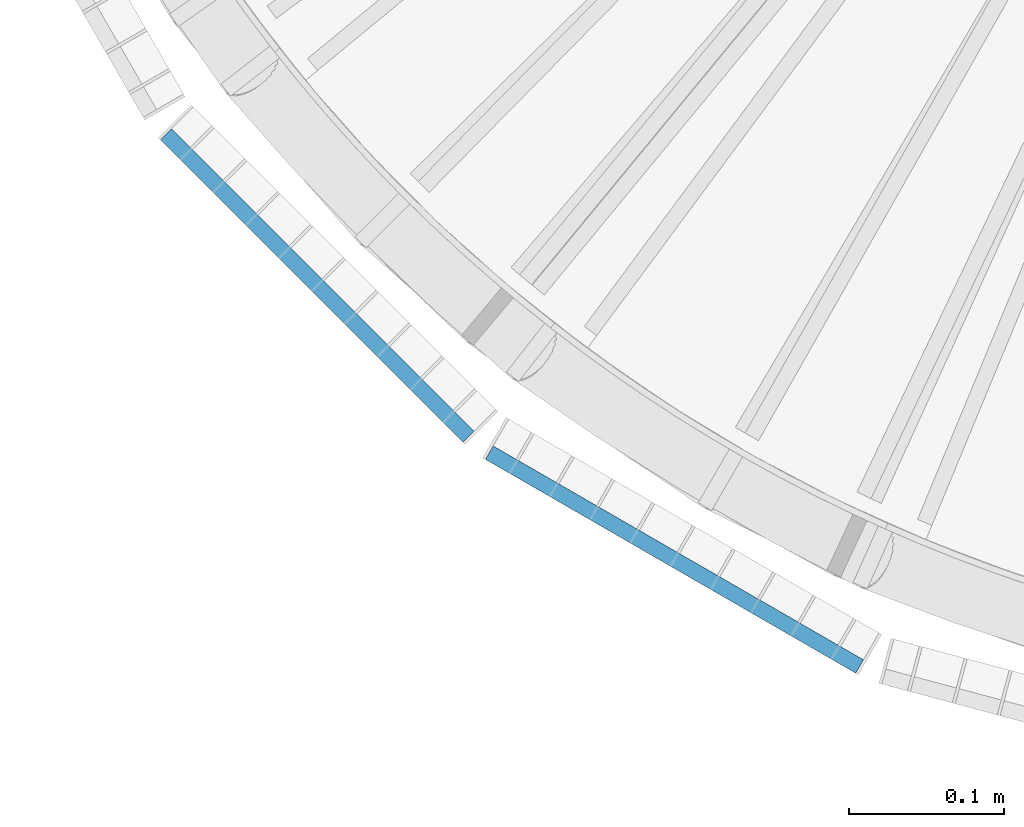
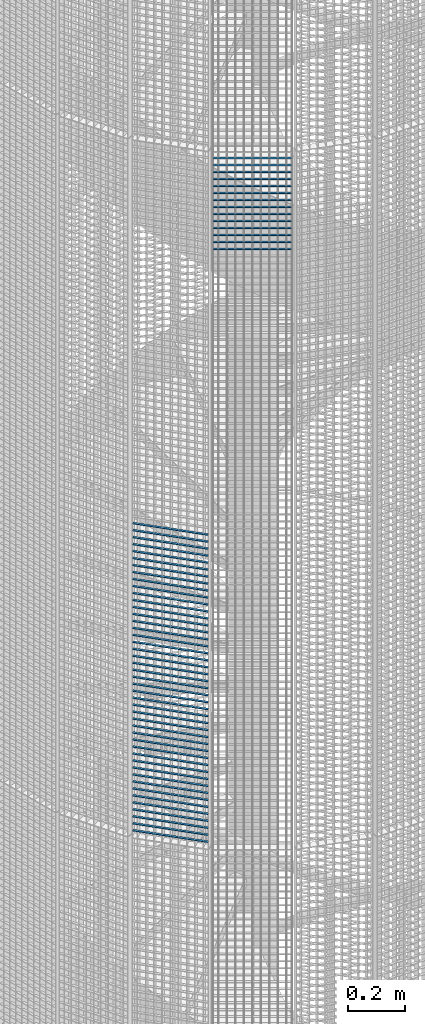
# One storey, part 361 of 1148: 59 beams, 2 elements without a shape of their own.
"""IFC2X3 building model written with IfcOpenShell, lengths in millimetres."""

from ifc_helpers import new_model, si_unit, frame, origin_with_axes, origin_2d_with_axis, place, context, subcontext, project, spatial, rectangle, extrude, material, type_object, element, aggregate, save


model = new_model("IFC2X3")

# Units and contexts
model_context = context("Model", 3, precision=1e-05, world=origin_with_axes())
body_context = subcontext(model_context, "Body", "Model", "MODEL_VIEW")
ifc_project = project(units=[si_unit("LENGTHUNIT", "METRE", prefix="MILLI"), si_unit("AREAUNIT", "SQUARE_METRE"), si_unit("VOLUMEUNIT", "CUBIC_METRE"), si_unit("MASSUNIT", "GRAM", prefix="KILO"), si_unit("TIMEUNIT", "SECOND"), si_unit("PLANEANGLEUNIT", "RADIAN"), si_unit("SOLIDANGLEUNIT", "STERADIAN"), si_unit("THERMODYNAMICTEMPERATUREUNIT", "DEGREE_CELSIUS"), si_unit("LUMINOUSINTENSITYUNIT", "LUMEN")], contexts=[model_context])

# Site, building, storey
site_placement = place(None, origin_with_axes())
site = spatial("IfcSite", under=ifc_project, at=site_placement, Name="Undefined", CompositionType="ELEMENT")
building_placement = place(site_placement, origin_with_axes())
building = spatial("IfcBuilding", under=site, at=building_placement, Name="Undefined", CompositionType="ELEMENT")
storey_placement = place(building_placement, origin_with_axes())
storey = spatial("IfcBuildingStorey", under=building, at=storey_placement, Name="Undefined", CompositionType="ELEMENT", Elevation=0.0)

# Assembly, beams
assembly_1_placement = place(storey_placement, origin_with_axes())
assembly_1 = element("IfcElementAssembly", 1, at=assembly_1_placement, inside=storey, Name="BORDURE", AssemblyPlace="NOTDEFINED", PredefinedType="NOTDEFINED")
ifc_material = material(Name="STEEL/S235JR")
beam_type = type_object("IfcBeamType", Name="PL2*10", PredefinedType="NOTDEFINED")
beam_1_placement = place(assembly_1_placement, frame((20910.2286510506, -884.927168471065, 4350.0), z_axis=(-0.70710678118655, -0.707106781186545, 0.0), x_axis=(-0.707106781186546, 0.707106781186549, 0.0)))
beam_1 = element("IfcBeam", 2, at=beam_1_placement, type_object=beam_type, material=ifc_material, Name="ENTRETOISE", context=body_context, shape_type="SweptSolid", body=[
    extrude(rectangle(XDim=2.0, YDim=10.0, at=origin_2d_with_axis()), frame((275.999999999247, 9.09494701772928e-13, 1.53210777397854e-14), z_axis=(-1.0, 0.0, 0.0), x_axis=(0.0, -1.0, 0.0)), (0.0, 0.0, 1.0), 276.0),
])
beam_2_placement = place(assembly_1_placement, frame((20910.2286510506, -884.927168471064, 4320.0), z_axis=(-0.70710678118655, -0.707106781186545, 0.0), x_axis=(-0.707106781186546, 0.707106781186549, 0.0)))
beam_2 = element("IfcBeam", 3, at=beam_2_placement, type_object=beam_type, material=ifc_material, Name="ENTRETOISE", context=body_context, shape_type="SweptSolid", body=[
    extrude(rectangle(XDim=2.0, YDim=10.0, at=origin_2d_with_axis()), frame((275.999999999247, 9.09494701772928e-13, 1.53210777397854e-14), z_axis=(-1.0, 0.0, 0.0), x_axis=(0.0, -1.0, 0.0)), (0.0, 0.0, 1.0), 276.0),
])
beam_3_placement = place(assembly_1_placement, frame((20910.2286510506, -884.927168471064, 4290.0), z_axis=(-0.70710678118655, -0.707106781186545, 0.0), x_axis=(-0.707106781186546, 0.707106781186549, 0.0)))
beam_3 = element("IfcBeam", 4, at=beam_3_placement, type_object=beam_type, material=ifc_material, Name="ENTRETOISE", context=body_context, shape_type="SweptSolid", body=[
    extrude(rectangle(XDim=2.0, YDim=10.0, at=origin_2d_with_axis()), frame((275.999999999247, 9.09494701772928e-13, 1.53210777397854e-14), z_axis=(-1.0, 0.0, 0.0), x_axis=(0.0, -1.0, 0.0)), (0.0, 0.0, 1.0), 276.0),
])
beam_4_placement = place(assembly_1_placement, frame((20910.2286510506, -884.927168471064, 4260.0), z_axis=(-0.70710678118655, -0.707106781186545, 0.0), x_axis=(-0.707106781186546, 0.707106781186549, 0.0)))
beam_4 = element("IfcBeam", 5, at=beam_4_placement, type_object=beam_type, material=ifc_material, Name="ENTRETOISE", context=body_context, shape_type="SweptSolid", body=[
    extrude(rectangle(XDim=2.0, YDim=10.0, at=origin_2d_with_axis()), frame((275.999999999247, 9.09494701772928e-13, 1.53210777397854e-14), z_axis=(-1.0, 0.0, 0.0), x_axis=(0.0, -1.0, 0.0)), (0.0, 0.0, 1.0), 276.0),
])
beam_5_placement = place(assembly_1_placement, frame((20910.2286510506, -884.927168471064, 4230.0), z_axis=(-0.70710678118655, -0.707106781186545, 0.0), x_axis=(-0.707106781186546, 0.707106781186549, 0.0)))
beam_5 = element("IfcBeam", 6, at=beam_5_placement, type_object=beam_type, material=ifc_material, Name="ENTRETOISE", context=body_context, shape_type="SweptSolid", body=[
    extrude(rectangle(XDim=2.0, YDim=10.0, at=origin_2d_with_axis()), frame((275.999999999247, 9.09494701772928e-13, 1.53210777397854e-14), z_axis=(-1.0, 0.0, 0.0), x_axis=(0.0, -1.0, 0.0)), (0.0, 0.0, 1.0), 276.0),
])
beam_6_placement = place(assembly_1_placement, frame((20910.2286510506, -884.927168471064, 4200.0), z_axis=(-0.70710678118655, -0.707106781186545, 0.0), x_axis=(-0.707106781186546, 0.707106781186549, 0.0)))
beam_6 = element("IfcBeam", 7, at=beam_6_placement, type_object=beam_type, material=ifc_material, Name="ENTRETOISE", context=body_context, shape_type="SweptSolid", body=[
    extrude(rectangle(XDim=2.0, YDim=10.0, at=origin_2d_with_axis()), frame((275.999999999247, 9.09494701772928e-13, 1.53210777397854e-14), z_axis=(-1.0, 0.0, 0.0), x_axis=(0.0, -1.0, 0.0)), (0.0, 0.0, 1.0), 276.0),
])
beam_7_placement = place(assembly_1_placement, frame((20910.2286510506, -884.927168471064, 4170.0), z_axis=(-0.70710678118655, -0.707106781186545, 0.0), x_axis=(-0.707106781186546, 0.707106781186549, 0.0)))
beam_7 = element("IfcBeam", 8, at=beam_7_placement, type_object=beam_type, material=ifc_material, Name="ENTRETOISE", context=body_context, shape_type="SweptSolid", body=[
    extrude(rectangle(XDim=2.0, YDim=10.0, at=origin_2d_with_axis()), frame((275.999999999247, 9.09494701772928e-13, 1.53210777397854e-14), z_axis=(-1.0, 0.0, 0.0), x_axis=(0.0, -1.0, 0.0)), (0.0, 0.0, 1.0), 276.0),
])
beam_8_placement = place(assembly_1_placement, frame((20910.2286510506, -884.927168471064, 4140.0), z_axis=(-0.70710678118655, -0.707106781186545, 0.0), x_axis=(-0.707106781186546, 0.707106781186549, 0.0)))
beam_8 = element("IfcBeam", 9, at=beam_8_placement, type_object=beam_type, material=ifc_material, Name="ENTRETOISE", context=body_context, shape_type="SweptSolid", body=[
    extrude(rectangle(XDim=2.0, YDim=10.0, at=origin_2d_with_axis()), frame((275.999999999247, 9.09494701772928e-13, 1.53210777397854e-14), z_axis=(-1.0, 0.0, 0.0), x_axis=(0.0, -1.0, 0.0)), (0.0, 0.0, 1.0), 276.0),
])
beam_9_placement = place(assembly_1_placement, frame((20910.2286510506, -884.927168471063, 3720.0), z_axis=(-0.70710678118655, -0.707106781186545, 0.0), x_axis=(-0.707106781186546, 0.707106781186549, 0.0)))
beam_9 = element("IfcBeam", 10, at=beam_9_placement, type_object=beam_type, material=ifc_material, Name="ENTRETOISE", context=body_context, shape_type="SweptSolid", body=[
    extrude(rectangle(XDim=2.0, YDim=10.0, at=origin_2d_with_axis()), frame((275.999999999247, 9.09494701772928e-13, 1.53210777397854e-14), z_axis=(-1.0, 0.0, 0.0), x_axis=(0.0, -1.0, 0.0)), (0.0, 0.0, 1.0), 276.0),
])
beam_10_placement = place(assembly_1_placement, frame((20910.2286510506, -884.927168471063, 3690.0), z_axis=(-0.70710678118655, -0.707106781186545, 0.0), x_axis=(-0.707106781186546, 0.707106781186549, 0.0)))
beam_10 = element("IfcBeam", 11, at=beam_10_placement, type_object=beam_type, material=ifc_material, Name="ENTRETOISE", context=body_context, shape_type="SweptSolid", body=[
    extrude(rectangle(XDim=2.0, YDim=10.0, at=origin_2d_with_axis()), frame((275.999999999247, 9.09494701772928e-13, 1.53210777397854e-14), z_axis=(-1.0, 0.0, 0.0), x_axis=(0.0, -1.0, 0.0)), (0.0, 0.0, 1.0), 276.0),
])
beam_11_placement = place(assembly_1_placement, frame((20910.2286510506, -884.927168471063, 3750.0), z_axis=(-0.70710678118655, -0.707106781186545, 0.0), x_axis=(-0.707106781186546, 0.707106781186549, 0.0)))
beam_11 = element("IfcBeam", 12, at=beam_11_placement, type_object=beam_type, material=ifc_material, Name="ENTRETOISE", context=body_context, shape_type="SweptSolid", body=[
    extrude(rectangle(XDim=2.0, YDim=10.0, at=origin_2d_with_axis()), frame((275.999999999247, 9.09494701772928e-13, 1.53210777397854e-14), z_axis=(-1.0, 0.0, 0.0), x_axis=(0.0, -1.0, 0.0)), (0.0, 0.0, 1.0), 276.0),
])
beam_12_placement = place(assembly_1_placement, frame((20910.2286510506, -884.927168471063, 3660.0), z_axis=(-0.70710678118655, -0.707106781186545, 0.0), x_axis=(-0.707106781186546, 0.707106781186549, 0.0)))
beam_12 = element("IfcBeam", 13, at=beam_12_placement, type_object=beam_type, material=ifc_material, Name="ENTRETOISE", context=body_context, shape_type="SweptSolid", body=[
    extrude(rectangle(XDim=2.0, YDim=10.0, at=origin_2d_with_axis()), frame((275.999999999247, 9.09494701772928e-13, 1.53210777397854e-14), z_axis=(-1.0, 0.0, 0.0), x_axis=(0.0, -1.0, 0.0)), (0.0, 0.0, 1.0), 276.0),
])
beam_13_placement = place(assembly_1_placement, frame((20910.2286510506, -884.927168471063, 3630.0), z_axis=(-0.70710678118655, -0.707106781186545, 0.0), x_axis=(-0.707106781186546, 0.707106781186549, 0.0)))
beam_13 = element("IfcBeam", 14, at=beam_13_placement, type_object=beam_type, material=ifc_material, Name="ENTRETOISE", context=body_context, shape_type="SweptSolid", body=[
    extrude(rectangle(XDim=2.0, YDim=10.0, at=origin_2d_with_axis()), frame((275.999999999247, 9.09494701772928e-13, 1.53210777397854e-14), z_axis=(-1.0, 0.0, 0.0), x_axis=(0.0, -1.0, 0.0)), (0.0, 0.0, 1.0), 276.0),
])
beam_14_placement = place(assembly_1_placement, frame((20910.2286510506, -884.927168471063, 3780.0), z_axis=(-0.70710678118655, -0.707106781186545, 0.0), x_axis=(-0.707106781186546, 0.707106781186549, 0.0)))
beam_14 = element("IfcBeam", 15, at=beam_14_placement, type_object=beam_type, material=ifc_material, Name="ENTRETOISE", context=body_context, shape_type="SweptSolid", body=[
    extrude(rectangle(XDim=2.0, YDim=10.0, at=origin_2d_with_axis()), frame((275.999999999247, 9.09494701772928e-13, 1.53210777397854e-14), z_axis=(-1.0, 0.0, 0.0), x_axis=(0.0, -1.0, 0.0)), (0.0, 0.0, 1.0), 276.0),
])
beam_15_placement = place(assembly_1_placement, frame((20910.2286510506, -884.927168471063, 3600.0), z_axis=(-0.70710678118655, -0.707106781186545, 0.0), x_axis=(-0.707106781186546, 0.707106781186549, 0.0)))
beam_15 = element("IfcBeam", 16, at=beam_15_placement, type_object=beam_type, material=ifc_material, Name="ENTRETOISE", context=body_context, shape_type="SweptSolid", body=[
    extrude(rectangle(XDim=2.0, YDim=10.0, at=origin_2d_with_axis()), frame((275.999999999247, 9.09494701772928e-13, 1.53210777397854e-14), z_axis=(-1.0, 0.0, 0.0), x_axis=(0.0, -1.0, 0.0)), (0.0, 0.0, 1.0), 276.0),
])
beam_16_placement = place(assembly_1_placement, frame((20910.2286510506, -884.927168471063, 3810.0), z_axis=(-0.70710678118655, -0.707106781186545, 0.0), x_axis=(-0.707106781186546, 0.707106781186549, 0.0)))
beam_16 = element("IfcBeam", 17, at=beam_16_placement, type_object=beam_type, material=ifc_material, Name="ENTRETOISE", context=body_context, shape_type="SweptSolid", body=[
    extrude(rectangle(XDim=2.0, YDim=10.0, at=origin_2d_with_axis()), frame((275.999999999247, 9.09494701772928e-13, 1.53210777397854e-14), z_axis=(-1.0, 0.0, 0.0), x_axis=(0.0, -1.0, 0.0)), (0.0, 0.0, 1.0), 276.0),
])
beam_17_placement = place(assembly_1_placement, frame((20910.2286510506, -884.927168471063, 3570.0), z_axis=(-0.70710678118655, -0.707106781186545, 0.0), x_axis=(-0.707106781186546, 0.707106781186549, 0.0)))
beam_17 = element("IfcBeam", 18, at=beam_17_placement, type_object=beam_type, material=ifc_material, Name="ENTRETOISE", context=body_context, shape_type="SweptSolid", body=[
    extrude(rectangle(XDim=2.0, YDim=10.0, at=origin_2d_with_axis()), frame((275.999999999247, 9.09494701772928e-13, 1.53210777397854e-14), z_axis=(-1.0, 0.0, 0.0), x_axis=(0.0, -1.0, 0.0)), (0.0, 0.0, 1.0), 276.0),
])
beam_18_placement = place(assembly_1_placement, frame((20910.2286510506, -884.927168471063, 3540.0), z_axis=(-0.70710678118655, -0.707106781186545, 0.0), x_axis=(-0.707106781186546, 0.707106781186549, 0.0)))
beam_18 = element("IfcBeam", 19, at=beam_18_placement, type_object=beam_type, material=ifc_material, Name="ENTRETOISE", context=body_context, shape_type="SweptSolid", body=[
    extrude(rectangle(XDim=2.0, YDim=10.0, at=origin_2d_with_axis()), frame((275.999999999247, 9.09494701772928e-13, 1.53210777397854e-14), z_axis=(-1.0, 0.0, 0.0), x_axis=(0.0, -1.0, 0.0)), (0.0, 0.0, 1.0), 276.0),
])
beam_19_placement = place(assembly_1_placement, frame((20910.2286510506, -884.927168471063, 3840.0), z_axis=(-0.70710678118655, -0.707106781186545, 0.0), x_axis=(-0.707106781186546, 0.707106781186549, 0.0)))
beam_19 = element("IfcBeam", 20, at=beam_19_placement, type_object=beam_type, material=ifc_material, Name="ENTRETOISE", context=body_context, shape_type="SweptSolid", body=[
    extrude(rectangle(XDim=2.0, YDim=10.0, at=origin_2d_with_axis()), frame((275.999999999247, 9.09494701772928e-13, 1.53210777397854e-14), z_axis=(-1.0, 0.0, 0.0), x_axis=(0.0, -1.0, 0.0)), (0.0, 0.0, 1.0), 276.0),
])
beam_20_placement = place(assembly_1_placement, frame((20910.2286510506, -884.927168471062, 3510.0), z_axis=(-0.70710678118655, -0.707106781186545, 0.0), x_axis=(-0.707106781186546, 0.707106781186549, 0.0)))
beam_20 = element("IfcBeam", 21, at=beam_20_placement, type_object=beam_type, material=ifc_material, Name="ENTRETOISE", context=body_context, shape_type="SweptSolid", body=[
    extrude(rectangle(XDim=2.0, YDim=10.0, at=origin_2d_with_axis()), frame((275.999999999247, 9.09494701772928e-13, 1.53210777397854e-14), z_axis=(-1.0, 0.0, 0.0), x_axis=(0.0, -1.0, 0.0)), (0.0, 0.0, 1.0), 276.0),
])
beam_21_placement = place(assembly_1_placement, frame((20910.2286510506, -884.927168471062, 3480.0), z_axis=(-0.70710678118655, -0.707106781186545, 0.0), x_axis=(-0.707106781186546, 0.707106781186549, 0.0)))
beam_21 = element("IfcBeam", 22, at=beam_21_placement, type_object=beam_type, material=ifc_material, Name="ENTRETOISE", context=body_context, shape_type="SweptSolid", body=[
    extrude(rectangle(XDim=2.0, YDim=10.0, at=origin_2d_with_axis()), frame((275.999999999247, 9.09494701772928e-13, 1.53210777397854e-14), z_axis=(-1.0, 0.0, 0.0), x_axis=(0.0, -1.0, 0.0)), (0.0, 0.0, 1.0), 276.0),
])
beam_22_placement = place(assembly_1_placement, frame((20910.2286510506, -884.927168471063, 3870.0), z_axis=(-0.70710678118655, -0.707106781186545, 0.0), x_axis=(-0.707106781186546, 0.707106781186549, 0.0)))
beam_22 = element("IfcBeam", 23, at=beam_22_placement, type_object=beam_type, material=ifc_material, Name="ENTRETOISE", context=body_context, shape_type="SweptSolid", body=[
    extrude(rectangle(XDim=2.0, YDim=10.0, at=origin_2d_with_axis()), frame((275.999999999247, 9.09494701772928e-13, 1.53210777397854e-14), z_axis=(-1.0, 0.0, 0.0), x_axis=(0.0, -1.0, 0.0)), (0.0, 0.0, 1.0), 276.0),
])
beam_23_placement = place(assembly_1_placement, frame((20910.2286510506, -884.927168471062, 3450.0), z_axis=(-0.70710678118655, -0.707106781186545, 0.0), x_axis=(-0.707106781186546, 0.707106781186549, 0.0)))
beam_23 = element("IfcBeam", 24, at=beam_23_placement, type_object=beam_type, material=ifc_material, Name="ENTRETOISE", context=body_context, shape_type="SweptSolid", body=[
    extrude(rectangle(XDim=2.0, YDim=10.0, at=origin_2d_with_axis()), frame((275.999999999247, 9.09494701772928e-13, 1.53210777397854e-14), z_axis=(-1.0, 0.0, 0.0), x_axis=(0.0, -1.0, 0.0)), (0.0, 0.0, 1.0), 276.0),
])
beam_24_placement = place(assembly_1_placement, frame((20910.2286510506, -884.927168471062, 3420.0), z_axis=(-0.70710678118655, -0.707106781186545, 0.0), x_axis=(-0.707106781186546, 0.707106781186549, 0.0)))
beam_24 = element("IfcBeam", 25, at=beam_24_placement, type_object=beam_type, material=ifc_material, Name="ENTRETOISE", context=body_context, shape_type="SweptSolid", body=[
    extrude(rectangle(XDim=2.0, YDim=10.0, at=origin_2d_with_axis()), frame((275.999999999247, 9.09494701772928e-13, 1.53210777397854e-14), z_axis=(-1.0, 0.0, 0.0), x_axis=(0.0, -1.0, 0.0)), (0.0, 0.0, 1.0), 276.0),
])
beam_25_placement = place(assembly_1_placement, frame((20910.2286510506, -884.927168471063, 3900.0), z_axis=(-0.70710678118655, -0.707106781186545, 0.0), x_axis=(-0.707106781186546, 0.707106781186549, 0.0)))
beam_25 = element("IfcBeam", 26, at=beam_25_placement, type_object=beam_type, material=ifc_material, Name="ENTRETOISE", context=body_context, shape_type="SweptSolid", body=[
    extrude(rectangle(XDim=2.0, YDim=10.0, at=origin_2d_with_axis()), frame((275.999999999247, 9.09494701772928e-13, 1.53210777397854e-14), z_axis=(-1.0, 0.0, 0.0), x_axis=(0.0, -1.0, 0.0)), (0.0, 0.0, 1.0), 276.0),
])
beam_26_placement = place(assembly_1_placement, frame((20910.2286510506, -884.927168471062, 3390.0), z_axis=(-0.70710678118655, -0.707106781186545, 0.0), x_axis=(-0.707106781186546, 0.707106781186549, 0.0)))
beam_26 = element("IfcBeam", 27, at=beam_26_placement, type_object=beam_type, material=ifc_material, Name="ENTRETOISE", context=body_context, shape_type="SweptSolid", body=[
    extrude(rectangle(XDim=2.0, YDim=10.0, at=origin_2d_with_axis()), frame((275.999999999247, 9.09494701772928e-13, 1.53210777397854e-14), z_axis=(-1.0, 0.0, 0.0), x_axis=(0.0, -1.0, 0.0)), (0.0, 0.0, 1.0), 276.0),
])
beam_27_placement = place(assembly_1_placement, frame((20910.2286510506, -884.927168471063, 3930.0), z_axis=(-0.70710678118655, -0.707106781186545, 0.0), x_axis=(-0.707106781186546, 0.707106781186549, 0.0)))
beam_27 = element("IfcBeam", 28, at=beam_27_placement, type_object=beam_type, material=ifc_material, Name="ENTRETOISE", context=body_context, shape_type="SweptSolid", body=[
    extrude(rectangle(XDim=2.0, YDim=10.0, at=origin_2d_with_axis()), frame((275.999999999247, 9.09494701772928e-13, 1.53210777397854e-14), z_axis=(-1.0, 0.0, 0.0), x_axis=(0.0, -1.0, 0.0)), (0.0, 0.0, 1.0), 276.0),
])
beam_28_placement = place(assembly_1_placement, frame((20910.2286510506, -884.927168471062, 3360.0), z_axis=(-0.70710678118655, -0.707106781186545, 0.0), x_axis=(-0.707106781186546, 0.707106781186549, 0.0)))
beam_28 = element("IfcBeam", 29, at=beam_28_placement, type_object=beam_type, material=ifc_material, Name="ENTRETOISE", context=body_context, shape_type="SweptSolid", body=[
    extrude(rectangle(XDim=2.0, YDim=10.0, at=origin_2d_with_axis()), frame((275.999999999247, 9.09494701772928e-13, 1.53210777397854e-14), z_axis=(-1.0, 0.0, 0.0), x_axis=(0.0, -1.0, 0.0)), (0.0, 0.0, 1.0), 276.0),
])
beam_29_placement = place(assembly_1_placement, frame((20910.2286510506, -884.927168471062, 3330.0), z_axis=(-0.70710678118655, -0.707106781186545, 0.0), x_axis=(-0.707106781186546, 0.707106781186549, 0.0)))
beam_29 = element("IfcBeam", 30, at=beam_29_placement, type_object=beam_type, material=ifc_material, Name="ENTRETOISE", context=body_context, shape_type="SweptSolid", body=[
    extrude(rectangle(XDim=2.0, YDim=10.0, at=origin_2d_with_axis()), frame((275.999999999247, 9.09494701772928e-13, 1.53210777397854e-14), z_axis=(-1.0, 0.0, 0.0), x_axis=(0.0, -1.0, 0.0)), (0.0, 0.0, 1.0), 276.0),
])
beam_30_placement = place(assembly_1_placement, frame((20910.2286510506, -884.927168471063, 3960.0), z_axis=(-0.70710678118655, -0.707106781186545, 0.0), x_axis=(-0.707106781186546, 0.707106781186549, 0.0)))
beam_30 = element("IfcBeam", 31, at=beam_30_placement, type_object=beam_type, material=ifc_material, Name="ENTRETOISE", context=body_context, shape_type="SweptSolid", body=[
    extrude(rectangle(XDim=2.0, YDim=10.0, at=origin_2d_with_axis()), frame((275.999999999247, 9.09494701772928e-13, 1.53210777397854e-14), z_axis=(-1.0, 0.0, 0.0), x_axis=(0.0, -1.0, 0.0)), (0.0, 0.0, 1.0), 276.0),
])
beam_31_placement = place(assembly_1_placement, frame((20910.2286510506, -884.927168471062, 3300.0), z_axis=(-0.70710678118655, -0.707106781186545, 0.0), x_axis=(-0.707106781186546, 0.707106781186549, 0.0)))
beam_31 = element("IfcBeam", 32, at=beam_31_placement, type_object=beam_type, material=ifc_material, Name="ENTRETOISE", context=body_context, shape_type="SweptSolid", body=[
    extrude(rectangle(XDim=2.0, YDim=10.0, at=origin_2d_with_axis()), frame((275.999999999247, 9.09494701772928e-13, 1.53210777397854e-14), z_axis=(-1.0, 0.0, 0.0), x_axis=(0.0, -1.0, 0.0)), (0.0, 0.0, 1.0), 276.0),
])
beam_32_placement = place(assembly_1_placement, frame((20910.2286510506, -884.927168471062, 3270.0), z_axis=(-0.70710678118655, -0.707106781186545, 0.0), x_axis=(-0.707106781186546, 0.707106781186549, 0.0)))
beam_32 = element("IfcBeam", 33, at=beam_32_placement, type_object=beam_type, material=ifc_material, Name="ENTRETOISE", context=body_context, shape_type="SweptSolid", body=[
    extrude(rectangle(XDim=2.0, YDim=10.0, at=origin_2d_with_axis()), frame((275.999999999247, 9.09494701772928e-13, 1.53210777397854e-14), z_axis=(-1.0, 0.0, 0.0), x_axis=(0.0, -1.0, 0.0)), (0.0, 0.0, 1.0), 276.0),
])
beam_33_placement = place(assembly_1_placement, frame((20910.2286510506, -884.927168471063, 3990.0), z_axis=(-0.70710678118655, -0.707106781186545, 0.0), x_axis=(-0.707106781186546, 0.707106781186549, 0.0)))
beam_33 = element("IfcBeam", 34, at=beam_33_placement, type_object=beam_type, material=ifc_material, Name="ENTRETOISE", context=body_context, shape_type="SweptSolid", body=[
    extrude(rectangle(XDim=2.0, YDim=10.0, at=origin_2d_with_axis()), frame((275.999999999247, 9.09494701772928e-13, 1.53210777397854e-14), z_axis=(-1.0, 0.0, 0.0), x_axis=(0.0, -1.0, 0.0)), (0.0, 0.0, 1.0), 276.0),
])
beam_34_placement = place(assembly_1_placement, frame((20910.2286510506, -884.927168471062, 3240.0), z_axis=(-0.70710678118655, -0.707106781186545, 0.0), x_axis=(-0.707106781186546, 0.707106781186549, 0.0)))
beam_34 = element("IfcBeam", 35, at=beam_34_placement, type_object=beam_type, material=ifc_material, Name="ENTRETOISE", context=body_context, shape_type="SweptSolid", body=[
    extrude(rectangle(XDim=2.0, YDim=10.0, at=origin_2d_with_axis()), frame((275.999999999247, 9.09494701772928e-13, 1.53210777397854e-14), z_axis=(-1.0, 0.0, 0.0), x_axis=(0.0, -1.0, 0.0)), (0.0, 0.0, 1.0), 276.0),
])
beam_35_placement = place(assembly_1_placement, frame((20910.2286510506, -884.927168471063, 4020.0), z_axis=(-0.70710678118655, -0.707106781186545, 0.0), x_axis=(-0.707106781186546, 0.707106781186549, 0.0)))
beam_35 = element("IfcBeam", 36, at=beam_35_placement, type_object=beam_type, material=ifc_material, Name="ENTRETOISE", context=body_context, shape_type="SweptSolid", body=[
    extrude(rectangle(XDim=2.0, YDim=10.0, at=origin_2d_with_axis()), frame((275.999999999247, 9.09494701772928e-13, 1.53210777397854e-14), z_axis=(-1.0, 0.0, 0.0), x_axis=(0.0, -1.0, 0.0)), (0.0, 0.0, 1.0), 276.0),
])
beam_36_placement = place(assembly_1_placement, frame((20910.2286510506, -884.927168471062, 3210.0), z_axis=(-0.70710678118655, -0.707106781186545, 0.0), x_axis=(-0.707106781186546, 0.707106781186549, 0.0)))
beam_36 = element("IfcBeam", 37, at=beam_36_placement, type_object=beam_type, material=ifc_material, Name="ENTRETOISE", context=body_context, shape_type="SweptSolid", body=[
    extrude(rectangle(XDim=2.0, YDim=10.0, at=origin_2d_with_axis()), frame((275.999999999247, 9.09494701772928e-13, 1.53210777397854e-14), z_axis=(-1.0, 0.0, 0.0), x_axis=(0.0, -1.0, 0.0)), (0.0, 0.0, 1.0), 276.0),
])
beam_37_placement = place(assembly_1_placement, frame((20910.2286510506, -884.927168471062, 3180.0), z_axis=(-0.70710678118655, -0.707106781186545, 0.0), x_axis=(-0.707106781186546, 0.707106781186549, 0.0)))
beam_37 = element("IfcBeam", 38, at=beam_37_placement, type_object=beam_type, material=ifc_material, Name="ENTRETOISE", context=body_context, shape_type="SweptSolid", body=[
    extrude(rectangle(XDim=2.0, YDim=10.0, at=origin_2d_with_axis()), frame((275.999999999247, 9.09494701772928e-13, 1.53210777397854e-14), z_axis=(-1.0, 0.0, 0.0), x_axis=(0.0, -1.0, 0.0)), (0.0, 0.0, 1.0), 276.0),
])
beam_38_placement = place(assembly_1_placement, frame((20910.2286510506, -884.927168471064, 4050.0), z_axis=(-0.70710678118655, -0.707106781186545, 0.0), x_axis=(-0.707106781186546, 0.707106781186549, 0.0)))
beam_38 = element("IfcBeam", 39, at=beam_38_placement, type_object=beam_type, material=ifc_material, Name="ENTRETOISE", context=body_context, shape_type="SweptSolid", body=[
    extrude(rectangle(XDim=2.0, YDim=10.0, at=origin_2d_with_axis()), frame((275.999999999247, 9.09494701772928e-13, 1.53210777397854e-14), z_axis=(-1.0, 0.0, 0.0), x_axis=(0.0, -1.0, 0.0)), (0.0, 0.0, 1.0), 276.0),
])
beam_39_placement = place(assembly_1_placement, frame((20910.2286510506, -884.927168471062, 3150.0), z_axis=(-0.70710678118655, -0.707106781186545, 0.0), x_axis=(-0.707106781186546, 0.707106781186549, 0.0)))
beam_39 = element("IfcBeam", 40, at=beam_39_placement, type_object=beam_type, material=ifc_material, Name="ENTRETOISE", context=body_context, shape_type="SweptSolid", body=[
    extrude(rectangle(XDim=2.0, YDim=10.0, at=origin_2d_with_axis()), frame((275.999999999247, 9.09494701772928e-13, 1.53210777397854e-14), z_axis=(-1.0, 0.0, 0.0), x_axis=(0.0, -1.0, 0.0)), (0.0, 0.0, 1.0), 276.0),
])
beam_40_placement = place(assembly_1_placement, frame((20910.2286510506, -884.927168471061, 3120.0), z_axis=(-0.70710678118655, -0.707106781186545, 0.0), x_axis=(-0.707106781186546, 0.707106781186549, 0.0)))
beam_40 = element("IfcBeam", 41, at=beam_40_placement, type_object=beam_type, material=ifc_material, Name="ENTRETOISE", context=body_context, shape_type="SweptSolid", body=[
    extrude(rectangle(XDim=2.0, YDim=10.0, at=origin_2d_with_axis()), frame((275.999999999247, 9.09494701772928e-13, 1.53210777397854e-14), z_axis=(-1.0, 0.0, 0.0), x_axis=(0.0, -1.0, 0.0)), (0.0, 0.0, 1.0), 276.0),
])
beam_41_placement = place(assembly_1_placement, frame((20910.2286510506, -884.927168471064, 4080.0), z_axis=(-0.70710678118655, -0.707106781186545, 0.0), x_axis=(-0.707106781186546, 0.707106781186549, 0.0)))
beam_41 = element("IfcBeam", 42, at=beam_41_placement, type_object=beam_type, material=ifc_material, Name="ENTRETOISE", context=body_context, shape_type="SweptSolid", body=[
    extrude(rectangle(XDim=2.0, YDim=10.0, at=origin_2d_with_axis()), frame((275.999999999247, 9.09494701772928e-13, 1.53210777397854e-14), z_axis=(-1.0, 0.0, 0.0), x_axis=(0.0, -1.0, 0.0)), (0.0, 0.0, 1.0), 276.0),
])
beam_42_placement = place(assembly_1_placement, frame((20910.2286510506, -884.927168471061, 3090.0), z_axis=(-0.70710678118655, -0.707106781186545, 0.0), x_axis=(-0.707106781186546, 0.707106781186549, 0.0)))
beam_42 = element("IfcBeam", 43, at=beam_42_placement, type_object=beam_type, material=ifc_material, Name="ENTRETOISE", context=body_context, shape_type="SweptSolid", body=[
    extrude(rectangle(XDim=2.0, YDim=10.0, at=origin_2d_with_axis()), frame((275.999999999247, 9.09494701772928e-13, 1.53210777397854e-14), z_axis=(-1.0, 0.0, 0.0), x_axis=(0.0, -1.0, 0.0)), (0.0, 0.0, 1.0), 276.0),
])
beam_43_placement = place(assembly_1_placement, frame((20910.2286510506, -884.927168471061, 3060.0), z_axis=(-0.70710678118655, -0.707106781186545, 0.0), x_axis=(-0.707106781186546, 0.707106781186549, 0.0)))
beam_43 = element("IfcBeam", 44, at=beam_43_placement, type_object=beam_type, material=ifc_material, Name="ENTRETOISE", context=body_context, shape_type="SweptSolid", body=[
    extrude(rectangle(XDim=2.0, YDim=10.0, at=origin_2d_with_axis()), frame((275.999999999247, 9.09494701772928e-13, 1.53210777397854e-14), z_axis=(-1.0, 0.0, 0.0), x_axis=(0.0, -1.0, 0.0)), (0.0, 0.0, 1.0), 276.0),
])
beam_44_placement = place(assembly_1_placement, frame((20910.2286510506, -884.927168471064, 4110.0), z_axis=(-0.70710678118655, -0.707106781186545, 0.0), x_axis=(-0.707106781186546, 0.707106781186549, 0.0)))
beam_44 = element("IfcBeam", 45, at=beam_44_placement, type_object=beam_type, material=ifc_material, Name="ENTRETOISE", context=body_context, shape_type="SweptSolid", body=[
    extrude(rectangle(XDim=2.0, YDim=10.0, at=origin_2d_with_axis()), frame((275.999999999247, 9.09494701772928e-13, 1.53210777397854e-14), z_axis=(-1.0, 0.0, 0.0), x_axis=(0.0, -1.0, 0.0)), (0.0, 0.0, 1.0), 276.0),
])
beam_45_placement = place(assembly_1_placement, frame((20910.2286510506, -884.92716847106, 3030.0), z_axis=(-0.70710678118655, -0.707106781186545, 0.0), x_axis=(-0.707106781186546, 0.707106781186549, 0.0)))
beam_45 = element("IfcBeam", 46, at=beam_45_placement, type_object=beam_type, material=ifc_material, Name="ENTRETOISE", context=body_context, shape_type="SweptSolid", body=[
    extrude(rectangle(XDim=2.0, YDim=10.0, at=origin_2d_with_axis()), frame((275.999999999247, 9.09494701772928e-13, 1.53210777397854e-14), z_axis=(-1.0, 0.0, 0.0), x_axis=(0.0, -1.0, 0.0)), (0.0, 0.0, 1.0), 276.0),
])
aggregate(assembly_1, [beam_1, beam_2, beam_3, beam_4, beam_5, beam_6, beam_7, beam_8, beam_9, beam_10, beam_11, beam_12, beam_13, beam_14, beam_15, beam_16, beam_17, beam_18, beam_19, beam_20, beam_21, beam_22, beam_23, beam_24, beam_25, beam_26, beam_27, beam_28, beam_29, beam_30, beam_31, beam_32, beam_33, beam_34, beam_35, beam_36, beam_37, beam_38, beam_39, beam_40, beam_41, beam_42, beam_43, beam_44, beam_45])

assembly_2_placement = place(storey_placement, origin_with_axes())
assembly_2 = element("IfcElementAssembly", 47, at=assembly_2_placement, inside=storey, Name="BORDURE", AssemblyPlace="NOTDEFINED", PredefinedType="NOTDEFINED")
beam_46_placement = place(assembly_2_placement, frame((21162.7680445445, -1033.29996828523, 5970.0), z_axis=(-0.49999999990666, -0.866025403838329, 0.0), x_axis=(-0.866025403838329, 0.499999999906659, 0.0)))
beam_46 = element("IfcBeam", 48, at=beam_46_placement, type_object=beam_type, material=ifc_material, Name="ENTRETOISE", context=body_context, shape_type="SweptSolid", body=[
    extrude(rectangle(XDim=2.0, YDim=10.0, at=origin_2d_with_axis()), frame((275.999999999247, 9.09494701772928e-13, 1.53210777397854e-14), z_axis=(-1.0, 0.0, 0.0), x_axis=(0.0, -1.0, 0.0)), (0.0, 0.0, 1.0), 276.0),
])
beam_47_placement = place(assembly_2_placement, frame((21162.7680445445, -1033.29996828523, 5940.0), z_axis=(-0.49999999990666, -0.866025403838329, 0.0), x_axis=(-0.866025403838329, 0.499999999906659, 0.0)))
beam_47 = element("IfcBeam", 49, at=beam_47_placement, type_object=beam_type, material=ifc_material, Name="ENTRETOISE", context=body_context, shape_type="SweptSolid", body=[
    extrude(rectangle(XDim=2.0, YDim=10.0, at=origin_2d_with_axis()), frame((275.999999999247, 9.09494701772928e-13, 1.53210777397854e-14), z_axis=(-1.0, 0.0, 0.0), x_axis=(0.0, -1.0, 0.0)), (0.0, 0.0, 1.0), 276.0),
])
beam_48_placement = place(assembly_2_placement, frame((21162.7680445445, -1033.29996828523, 5910.0), z_axis=(-0.49999999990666, -0.866025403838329, 0.0), x_axis=(-0.866025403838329, 0.499999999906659, 0.0)))
beam_48 = element("IfcBeam", 50, at=beam_48_placement, type_object=beam_type, material=ifc_material, Name="ENTRETOISE", context=body_context, shape_type="SweptSolid", body=[
    extrude(rectangle(XDim=2.0, YDim=10.0, at=origin_2d_with_axis()), frame((275.999999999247, 9.09494701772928e-13, 1.53210777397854e-14), z_axis=(-1.0, 0.0, 0.0), x_axis=(0.0, -1.0, 0.0)), (0.0, 0.0, 1.0), 276.0),
])
beam_49_placement = place(assembly_2_placement, frame((21162.7680445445, -1033.29996828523, 5880.0), z_axis=(-0.49999999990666, -0.866025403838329, 0.0), x_axis=(-0.866025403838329, 0.499999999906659, 0.0)))
beam_49 = element("IfcBeam", 51, at=beam_49_placement, type_object=beam_type, material=ifc_material, Name="ENTRETOISE", context=body_context, shape_type="SweptSolid", body=[
    extrude(rectangle(XDim=2.0, YDim=10.0, at=origin_2d_with_axis()), frame((275.999999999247, 9.09494701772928e-13, 1.53210777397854e-14), z_axis=(-1.0, 0.0, 0.0), x_axis=(0.0, -1.0, 0.0)), (0.0, 0.0, 1.0), 276.0),
])
beam_50_placement = place(assembly_2_placement, frame((21162.7680445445, -1033.29996828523, 5850.0), z_axis=(-0.49999999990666, -0.866025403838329, 0.0), x_axis=(-0.866025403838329, 0.499999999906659, 0.0)))
beam_50 = element("IfcBeam", 52, at=beam_50_placement, type_object=beam_type, material=ifc_material, Name="ENTRETOISE", context=body_context, shape_type="SweptSolid", body=[
    extrude(rectangle(XDim=2.0, YDim=10.0, at=origin_2d_with_axis()), frame((275.999999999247, 9.09494701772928e-13, 1.53210777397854e-14), z_axis=(-1.0, 0.0, 0.0), x_axis=(0.0, -1.0, 0.0)), (0.0, 0.0, 1.0), 276.0),
])
beam_51_placement = place(assembly_2_placement, frame((21162.7680445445, -1033.29996828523, 5820.0), z_axis=(-0.49999999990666, -0.866025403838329, 0.0), x_axis=(-0.866025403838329, 0.499999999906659, 0.0)))
beam_51 = element("IfcBeam", 53, at=beam_51_placement, type_object=beam_type, material=ifc_material, Name="ENTRETOISE", context=body_context, shape_type="SweptSolid", body=[
    extrude(rectangle(XDim=2.0, YDim=10.0, at=origin_2d_with_axis()), frame((275.999999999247, 9.09494701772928e-13, 1.53210777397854e-14), z_axis=(-1.0, 0.0, 0.0), x_axis=(0.0, -1.0, 0.0)), (0.0, 0.0, 1.0), 276.0),
])
beam_52_placement = place(assembly_2_placement, frame((21162.7680445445, -1033.29996828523, 5790.0), z_axis=(-0.49999999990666, -0.866025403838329, 0.0), x_axis=(-0.866025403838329, 0.499999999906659, 0.0)))
beam_52 = element("IfcBeam", 54, at=beam_52_placement, type_object=beam_type, material=ifc_material, Name="ENTRETOISE", context=body_context, shape_type="SweptSolid", body=[
    extrude(rectangle(XDim=2.0, YDim=10.0, at=origin_2d_with_axis()), frame((275.999999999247, 9.09494701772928e-13, 1.53210777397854e-14), z_axis=(-1.0, 0.0, 0.0), x_axis=(0.0, -1.0, 0.0)), (0.0, 0.0, 1.0), 276.0),
])
beam_53_placement = place(assembly_2_placement, frame((21162.7680445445, -1033.29996828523, 5760.0), z_axis=(-0.49999999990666, -0.866025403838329, 0.0), x_axis=(-0.866025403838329, 0.499999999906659, 0.0)))
beam_53 = element("IfcBeam", 55, at=beam_53_placement, type_object=beam_type, material=ifc_material, Name="ENTRETOISE", context=body_context, shape_type="SweptSolid", body=[
    extrude(rectangle(XDim=2.0, YDim=10.0, at=origin_2d_with_axis()), frame((275.999999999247, 9.09494701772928e-13, 1.53210777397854e-14), z_axis=(-1.0, 0.0, 0.0), x_axis=(0.0, -1.0, 0.0)), (0.0, 0.0, 1.0), 276.0),
])
beam_54_placement = place(assembly_2_placement, frame((21162.7680445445, -1033.29996828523, 5730.0), z_axis=(-0.49999999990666, -0.866025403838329, 0.0), x_axis=(-0.866025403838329, 0.499999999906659, 0.0)))
beam_54 = element("IfcBeam", 56, at=beam_54_placement, type_object=beam_type, material=ifc_material, Name="ENTRETOISE", context=body_context, shape_type="SweptSolid", body=[
    extrude(rectangle(XDim=2.0, YDim=10.0, at=origin_2d_with_axis()), frame((275.999999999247, 9.09494701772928e-13, 1.53210777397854e-14), z_axis=(-1.0, 0.0, 0.0), x_axis=(0.0, -1.0, 0.0)), (0.0, 0.0, 1.0), 276.0),
])
beam_55_placement = place(assembly_2_placement, frame((21162.7680445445, -1033.29996828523, 5700.0), z_axis=(-0.49999999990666, -0.866025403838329, 0.0), x_axis=(-0.866025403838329, 0.499999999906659, 0.0)))
beam_55 = element("IfcBeam", 57, at=beam_55_placement, type_object=beam_type, material=ifc_material, Name="ENTRETOISE", context=body_context, shape_type="SweptSolid", body=[
    extrude(rectangle(XDim=2.0, YDim=10.0, at=origin_2d_with_axis()), frame((275.999999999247, 9.09494701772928e-13, 1.53210777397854e-14), z_axis=(-1.0, 0.0, 0.0), x_axis=(0.0, -1.0, 0.0)), (0.0, 0.0, 1.0), 276.0),
])
beam_56_placement = place(assembly_2_placement, frame((21162.7680445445, -1033.29996828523, 5670.0), z_axis=(-0.49999999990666, -0.866025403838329, 0.0), x_axis=(-0.866025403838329, 0.499999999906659, 0.0)))
beam_56 = element("IfcBeam", 58, at=beam_56_placement, type_object=beam_type, material=ifc_material, Name="ENTRETOISE", context=body_context, shape_type="SweptSolid", body=[
    extrude(rectangle(XDim=2.0, YDim=10.0, at=origin_2d_with_axis()), frame((275.999999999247, 9.09494701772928e-13, 1.53210777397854e-14), z_axis=(-1.0, 0.0, 0.0), x_axis=(0.0, -1.0, 0.0)), (0.0, 0.0, 1.0), 276.0),
])
beam_57_placement = place(assembly_2_placement, frame((21162.7680445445, -1033.29996828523, 5640.0), z_axis=(-0.49999999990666, -0.866025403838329, 0.0), x_axis=(-0.866025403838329, 0.499999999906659, 0.0)))
beam_57 = element("IfcBeam", 59, at=beam_57_placement, type_object=beam_type, material=ifc_material, Name="ENTRETOISE", context=body_context, shape_type="SweptSolid", body=[
    extrude(rectangle(XDim=2.0, YDim=10.0, at=origin_2d_with_axis()), frame((275.999999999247, 9.09494701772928e-13, 1.53210777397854e-14), z_axis=(-1.0, 0.0, 0.0), x_axis=(0.0, -1.0, 0.0)), (0.0, 0.0, 1.0), 276.0),
])
beam_58_placement = place(assembly_2_placement, frame((21162.7680445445, -1033.29996828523, 5610.0), z_axis=(-0.49999999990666, -0.866025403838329, 0.0), x_axis=(-0.866025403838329, 0.499999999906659, 0.0)))
beam_58 = element("IfcBeam", 60, at=beam_58_placement, type_object=beam_type, material=ifc_material, Name="ENTRETOISE", context=body_context, shape_type="SweptSolid", body=[
    extrude(rectangle(XDim=2.0, YDim=10.0, at=origin_2d_with_axis()), frame((275.999999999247, 9.09494701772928e-13, 1.53210777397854e-14), z_axis=(-1.0, 0.0, 0.0), x_axis=(0.0, -1.0, 0.0)), (0.0, 0.0, 1.0), 276.0),
])
beam_59_placement = place(assembly_2_placement, frame((21162.7680445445, -1033.29996828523, 5580.0), z_axis=(-0.49999999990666, -0.866025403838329, 0.0), x_axis=(-0.866025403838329, 0.499999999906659, 0.0)))
beam_59 = element("IfcBeam", 61, at=beam_59_placement, type_object=beam_type, material=ifc_material, Name="ENTRETOISE", context=body_context, shape_type="SweptSolid", body=[
    extrude(rectangle(XDim=2.0, YDim=10.0, at=origin_2d_with_axis()), frame((275.999999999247, 9.09494701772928e-13, 1.53210777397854e-14), z_axis=(-1.0, 0.0, 0.0), x_axis=(0.0, -1.0, 0.0)), (0.0, 0.0, 1.0), 276.0),
])
aggregate(assembly_2, [beam_46, beam_47, beam_48, beam_49, beam_50, beam_51, beam_52, beam_53, beam_54, beam_55, beam_56, beam_57, beam_58, beam_59])

save(model, "model.ifc")
